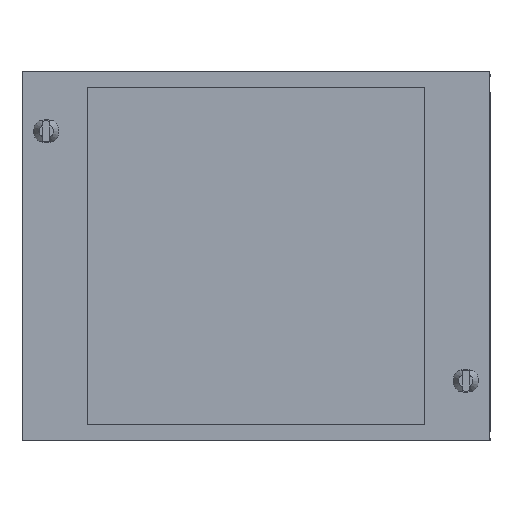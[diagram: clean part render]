
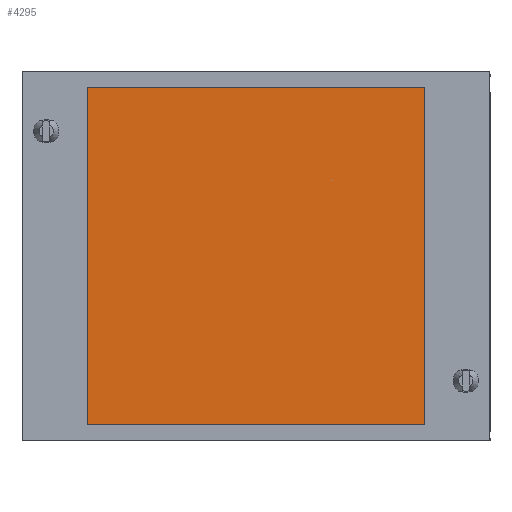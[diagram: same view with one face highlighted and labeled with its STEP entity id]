
A CAD part, front view. The second image highlights one B-rep face of the part: STEP entity #4295.
In plain terms, the highlighted planar face has unit normal (0, -1, 0).
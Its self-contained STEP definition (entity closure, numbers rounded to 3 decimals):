
#210 = ORIENTED_EDGE ( 'NONE', *, *, #4293, .F. ) ;
#339 = PLANE ( 'NONE',  #5324 ) ;
#607 = DIRECTION ( 'NONE',  ( 0., 0., 1. ) ) ;
#793 = EDGE_LOOP ( 'NONE', ( #7224, #9525, #8460, #210 ) ) ;
#819 = DIRECTION ( 'NONE',  ( 0., 0., -1. ) ) ;
#973 = LINE ( 'NONE', #4396, #3497 ) ;
#1058 = FACE_OUTER_BOUND ( 'NONE', #793, .T. ) ;
#1301 = CARTESIAN_POINT ( 'NONE',  ( -22.86, -0.13, 22.86 ) ) ;
#1375 = EDGE_CURVE ( 'NONE', #8578, #2177, #7601, .T. ) ;
#1656 = CARTESIAN_POINT ( 'NONE',  ( -22.86, -0.13, -22.86 ) ) ;
#2177 = VERTEX_POINT ( 'NONE', #9583 ) ;
#2756 = EDGE_CURVE ( 'NONE', #2177, #10183, #973, .T. ) ;
#3255 = EDGE_CURVE ( 'NONE', #10183, #10636, #8414, .T. ) ;
#3494 = DIRECTION ( 'NONE',  ( -1., 0., 0. ) ) ;
#3497 = VECTOR ( 'NONE', #3494, 1000. ) ;
#4293 = EDGE_CURVE ( 'NONE', #10636, #8578, #5438, .T. ) ;
#4295 = ADVANCED_FACE ( 'NONE', ( #1058 ), #339, .F. ) ;
#4396 = CARTESIAN_POINT ( 'NONE',  ( 22.86, -0.13, -22.86 ) ) ;
#5324 = AXIS2_PLACEMENT_3D ( 'NONE', #9825, #10769, #7097 ) ;
#5438 = LINE ( 'NONE', #8018, #10542 ) ;
#5605 = VECTOR ( 'NONE', #819, 1000. ) ;
#7081 = VECTOR ( 'NONE', #607, 1000. ) ;
#7097 = DIRECTION ( 'NONE',  ( 0., 0., 1. ) ) ;
#7224 = ORIENTED_EDGE ( 'NONE', *, *, #3255, .F. ) ;
#7601 = LINE ( 'NONE', #7777, #5605 ) ;
#7777 = CARTESIAN_POINT ( 'NONE',  ( 22.86, -0.13, 22.86 ) ) ;
#8018 = CARTESIAN_POINT ( 'NONE',  ( 22.86, -0.13, 22.86 ) ) ;
#8414 = LINE ( 'NONE', #9368, #7081 ) ;
#8460 = ORIENTED_EDGE ( 'NONE', *, *, #1375, .F. ) ;
#8578 = VERTEX_POINT ( 'NONE', #10223 ) ;
#8746 = DIRECTION ( 'NONE',  ( 1., 0., 0. ) ) ;
#9368 = CARTESIAN_POINT ( 'NONE',  ( -22.86, -0.13, 22.86 ) ) ;
#9525 = ORIENTED_EDGE ( 'NONE', *, *, #2756, .F. ) ;
#9583 = CARTESIAN_POINT ( 'NONE',  ( 22.86, -0.13, -22.86 ) ) ;
#9825 = CARTESIAN_POINT ( 'NONE',  ( 0., -0.13, 0. ) ) ;
#10183 = VERTEX_POINT ( 'NONE', #1656 ) ;
#10223 = CARTESIAN_POINT ( 'NONE',  ( 22.86, -0.13, 22.86 ) ) ;
#10542 = VECTOR ( 'NONE', #8746, 1000. ) ;
#10636 = VERTEX_POINT ( 'NONE', #1301 ) ;
#10769 = DIRECTION ( 'NONE',  ( 0., 1., 0. ) ) ;
